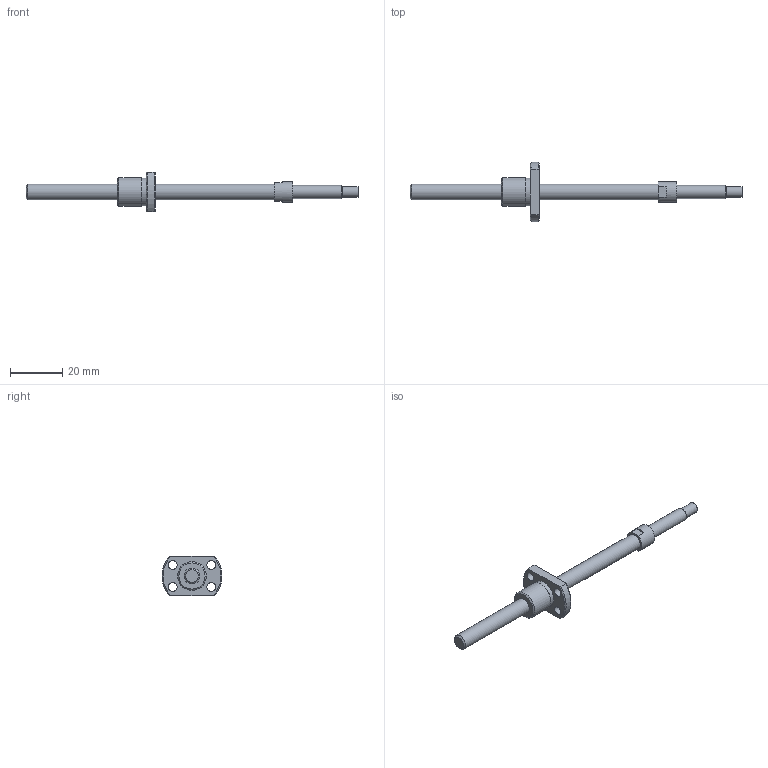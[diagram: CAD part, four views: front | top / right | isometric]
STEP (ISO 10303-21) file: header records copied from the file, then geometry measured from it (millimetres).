
FILE_DESCRIPTION(/* description */ ('STEP AP214'),/* implementation_level */ '2;1');
FILE_NAME(/* name */ 'SRT0601K-91R127C10A0X(A35Processing0X)',/* time_stamp */ '2026-08-04T17:54:32+02:00',/* author */ ('License CC BY-ND 4.0'),/* organization */ ('CADENAS'),/* preprocessor_version */ 'ST-DEVELOPER v20',/* originating_system */ 'PARTsolutions',/* authorisation */ ' ');
FILE_SCHEMA (('AUTOMOTIVE_DESIGN {1 0 10303 214 3 1 1}'));
Length unit declared in the file: millimetre
Products named in the file (3): SRT0601K-91R127C10A0X(A35Processing0X); 4AProcessing127; SR0601K_nut
Assembly tree (2 placements, depth 2):
  SRT0601K-91R127C10A0X(A35Processing0X)
    4AProcessing127
    SR0601K_nut
Bounding box: 127 x 22.93 x 15 mm (x, y, z)
Volume: 5074.8 mm3; surface area: 3958.7 mm2
Topology: 2 solids, 2 shells, 35 faces, 75 edges, 49 vertices
Faces by surface type: plane 15, cylinder 13, cone 7
Full cylindrical faces by diameter (mm): 3.4 x4, 4 x1, 5 x1, 6 x2, 8 x1, 10.6 x1, 11 x1
Entity records: 985 total; most frequent: CARTESIAN_POINT 170, DIRECTION 164, ORIENTED_EDGE 120, AXIS2_PLACEMENT_3D 74, EDGE_LOOP 64, FACE_BOUND 64, EDGE_CURVE 60, VERTEX_POINT 48
